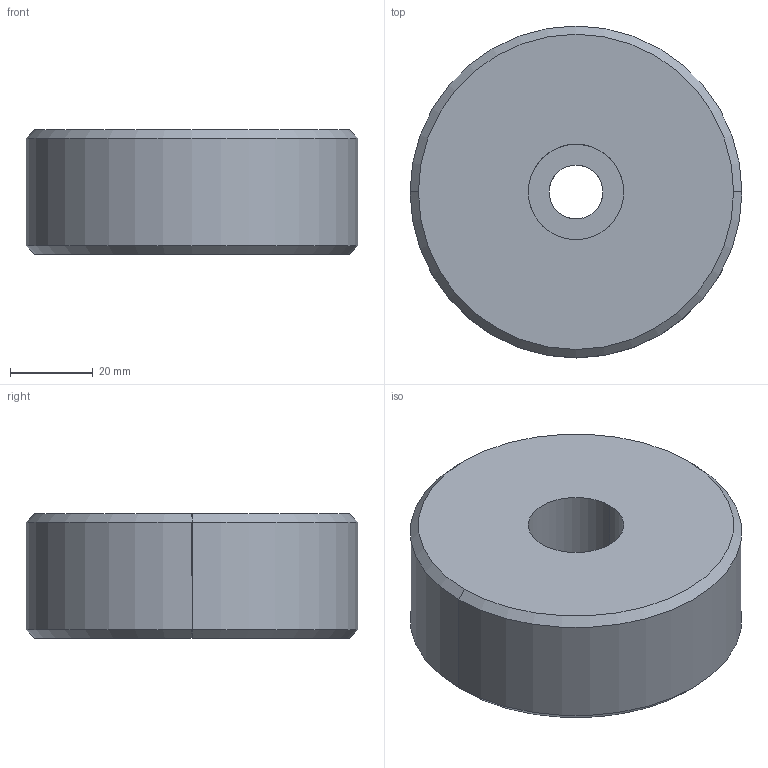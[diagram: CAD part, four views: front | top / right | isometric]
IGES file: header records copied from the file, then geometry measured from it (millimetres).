
Start section: START RECORD GO HERE.
Global section: file name: 703.4.igs; native system: DASSAULT SYSTEMES CATIA V5 R20 - www.3ds.com; preprocessor: CATIA Version 5 Release 20 ; author: Utente; organization: NB04-ASUS; date: 20201025.133949; units: millimetre
Bounding box: 80 x 80 x 30 mm (x, y, z)
Surface area: 18518.9 mm2 (no closed solid volume)
Topology: 0 solids, 0 shells, 13 faces, 52 edges, 52 vertices
Faces by surface type: revolution 10, plane 3
